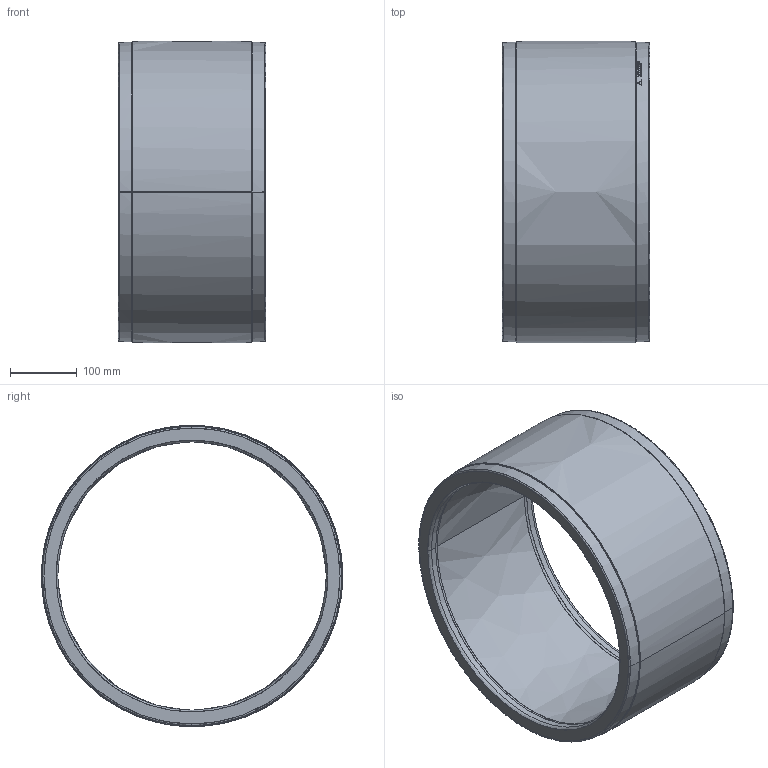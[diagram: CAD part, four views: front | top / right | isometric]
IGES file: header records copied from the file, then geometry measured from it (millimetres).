
Start section:  PTC IGES file: am_d400.igs
Global section: file name: am_d400.igs; native system: Pro/ENGINEER by Parametric Technology Corporation; preprocessor: 2011490; author: mtunjic; organization: Unknown; date: 20130729.163205; units: millimetre
Bounding box: 220 x 450 x 450 mm (x, y, z)
Surface area: 645788.2 mm2 (no closed solid volume)
Topology: 0 solids, 0 shells, 155 faces, 776 edges, 776 vertices
Faces by surface type: bspline 155
